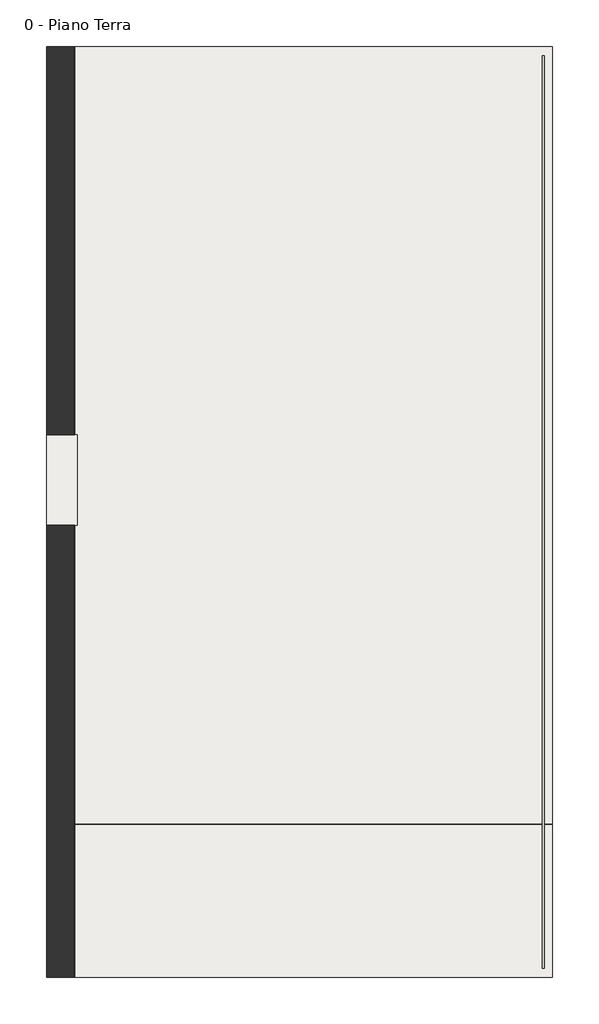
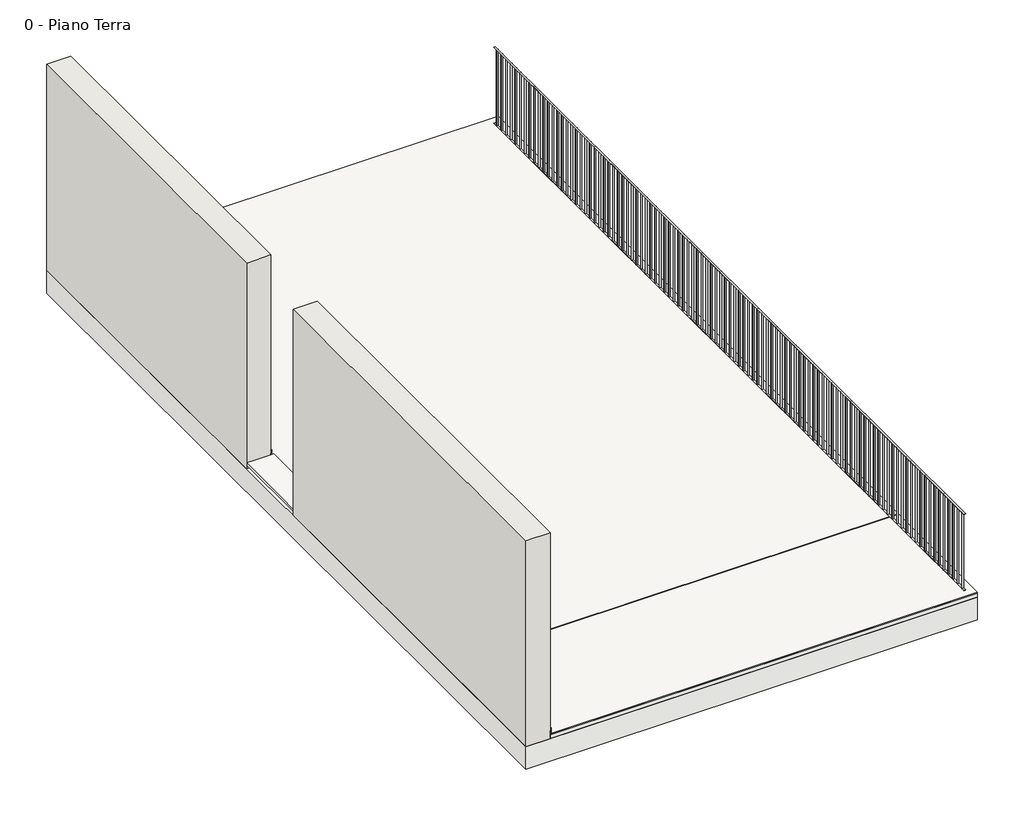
# One storey: 5 proxies, 5 slabs, 4 walls, 1 railing.
"""IFC4 building model written with IfcOpenShell, lengths in millimetres."""

from ifc_helpers import new_model, si_unit, frame, origin, origin_with_axes, place, context, project, spatial, polyline, outline, extrude, faceted_brep, element, save

model = new_model("IFC4")

# Units and contexts
model_context = context("Model", 3, world=origin())
ifc_project = project(units=[si_unit("LENGTHUNIT", "METRE", prefix="MILLI")], contexts=[model_context])

# Site, building, storey
site = spatial("IfcSite", under=ifc_project)
building = spatial("IfcBuilding", under=site)
storey = spatial("IfcBuildingStorey", under=building, Name="0 - Piano Terra", Elevation=0.0)

# Proxies
placement = place(None, origin())
element("IfcBuildingElementProxy", 1, Name="AQUASCUD JOIN VOLTECO", ObjectType="AQUASCUD JOIN VOLTECO", at=placement, inside=storey, context=model_context, shape_type="SweptSolid", body=[
    extrude(outline(polyline([(100.0, 12692.4028429), (50.0, 12692.4028429), (50.0, 12742.4028429), (51.0, 12742.4028429), (51.0, 12693.4028429), (100.0, 12693.4028429), (100.0, 12692.4028429)])), frame((0.0, 6340.2646486, 0.0), z_axis=(0.0, 1.0, 0.0), x_axis=(0.0, 0.0, 1.0)), (0.0, 0.0, 1.0), 5003.9897017),
])
element("IfcBuildingElementProxy", 2, Name="AQUASCUD JOIN VOLTECO", ObjectType="AQUASCUD JOIN VOLTECO", at=placement, inside=storey, context=model_context, shape_type="SweptSolid", body=[
    extrude(outline(polyline([(100.0, 12692.4028429), (50.0, 12692.4028429), (50.0, 12742.4028429), (51.0, 12742.4028429), (51.0, 12693.4028429), (100.0, 12693.4028429), (100.0, 12692.4028429)])), frame((0.0, 12344.2543503, 0.0), z_axis=(0.0, 1.0, 0.0), x_axis=(0.0, 0.0, 1.0)), (0.0, 0.0, 1.0), 4296.0102983),
])
element("IfcBuildingElementProxy", 3, Name="GARVO 3 VOLTECO", ObjectType="GARVO 3 VOLTECO", at=placement, inside=storey, context=model_context, shape_type="SweptSolid", body=[
    extrude(outline(polyline([(17992.4028429, 14580.2646486), (17992.4028429, 14480.2646486), (12692.4028429, 14480.2646486), (12692.4028429, 14580.2646486), (17992.4028429, 14580.2646486)])), frame((0.0, 0.0, 50.0), z_axis=(0.0, 0.0, 1.0), x_axis=(1.0, 0.0, 0.0)), (0.0, 0.0, 1.0), 1.0),
])
element("IfcBuildingElementProxy", 4, Name="GARVO 5 VOLTECO", ObjectType="GARVO 5 VOLTECO", at=placement, inside=storey, context=model_context, shape_type="SweptSolid", body=[
    extrude(outline(polyline([(12692.4028429, 7960.2646486), (12692.4028429, 8110.2646486), (17992.4028429, 8110.2646486), (17992.4028429, 7960.2646486), (12692.4028429, 7960.2646486)])), frame((0.0, 0.0, 50.0), z_axis=(0.0, 0.0, 1.0), x_axis=(1.0, 0.0, 0.0)), (0.0, 0.0, 1.0), 1.0),
])
element("IfcBuildingElementProxy", 5, Name="AQUASCUD JOIN BT VOLTECO", ObjectType="AQUASCUD JOIN BT VOLTECO", at=placement, inside=storey, context=model_context, shape_type="Brep", body=[
    faceted_brep([(12733.4028429, 11343.2543503, 60.0), (12733.4028429, 11343.2543503, 51.0), (12733.4028429, 12345.2543503, 51.0), (12733.4028429, 12345.2543503, 60.0), (12732.4028429, 11344.2543503, 60.0), (12732.4028429, 12344.2543503, 60.0), (12732.4028429, 11344.2543503, 50.0), (12732.4028429, 12344.2543503, 50.0), (12782.4028429, 11294.2543503, 50.0), (12782.4028429, 12394.2543503, 50.0), (12782.4028429, 11294.2543503, 51.0), (12782.4028429, 12394.2543503, 51.0), (12693.4028429, 11343.2543503, 51.0), (12693.4028429, 11343.2543503, 60.0), (12693.4028429, 11344.2543503, 60.0), (12693.4028429, 11344.2543503, 50.0), (12693.4028429, 11294.2543503, 50.0), (12693.4028429, 11294.2543503, 51.0), (12693.4028429, 12345.2543503, 60.0), (12693.4028429, 12345.2543503, 51.0), (12693.4028429, 12394.2543503, 51.0), (12693.4028429, 12394.2543503, 50.0), (12693.4028429, 12344.2543503, 50.0), (12693.4028429, 12344.2543503, 60.0)], [[[0, 1, 2, 3]], [[4, 0, 3, 5]], [[6, 4, 5, 7]], [[8, 6, 7, 9]], [[10, 8, 9, 11]], [[1, 10, 11, 2]], [[12, 13, 14, 15, 16, 17]], [[1, 0, 13, 12]], [[0, 4, 14, 13]], [[4, 6, 15, 14]], [[6, 8, 16, 15]], [[8, 10, 17, 16]], [[10, 1, 12, 17]], [[18, 19, 20, 21, 22, 23]], [[3, 2, 19, 18]], [[5, 3, 18, 23]], [[7, 5, 23, 22]], [[9, 7, 22, 21]], [[11, 9, 21, 20]], [[2, 11, 20, 19]]]),
])

# Railing
element("IfcRailing", 6, ObjectType="Rettangolare Semplice", at=placement, inside=storey, context=model_context, shape_type="SweptSolid", body=[
    extrude(outline(polyline([(17882.3845922, 16540.2646486), (17902.3845922, 16540.2646486), (17902.3845922, 6440.2646486), (17882.3845922, 6440.2646486), (17882.3845922, 16540.2646486)])), frame((0.0, 0.0, 1060.0), z_axis=(0.0, 0.0, 1.0), x_axis=(1.0, 0.0, 0.0)), (0.0, 0.0, 1.0), 5.0),
    extrude(outline(polyline([(17882.4210936, 16540.2646486), (17902.4210936, 16540.2646486), (17902.4210936, 6440.2646486), (17882.4210936, 6440.2646486), (17882.4210936, 16540.2646486)])), frame((0.0, 0.0, 60.0), z_axis=(0.0, 0.0, 1.0), x_axis=(1.0, 0.0, 0.0)), (0.0, 0.0, 1.0), 5.0),
    extrude(outline(polyline([(17901.5437303, 6485.9436706), (17901.5437303, 6480.9436706), (17881.5437303, 6480.9436706), (17881.5437303, 6485.9436706), (17901.5437303, 6485.9436706)])), frame((0.0, 0.0, 64.9549766), z_axis=(0.0, 0.0, 1.0), x_axis=(1.0, 0.0, 0.0)), (0.0, 0.0, 1.0), 997.6),
    extrude(outline(polyline([(17901.5437303, 6585.9436706), (17901.5437303, 6580.9436706), (17881.5437303, 6580.9436706), (17881.5437303, 6585.9436706), (17901.5437303, 6585.9436706)])), frame((0.0, 0.0, 64.9549766), z_axis=(0.0, 0.0, 1.0), x_axis=(1.0, 0.0, 0.0)), (0.0, 0.0, 1.0), 997.6),
    extrude(outline(polyline([(17901.5437303, 6685.9436706), (17901.5437303, 6680.9436706), (17881.5437303, 6680.9436706), (17881.5437303, 6685.9436706), (17901.5437303, 6685.9436706)])), frame((0.0, 0.0, 64.9549766), z_axis=(0.0, 0.0, 1.0), x_axis=(1.0, 0.0, 0.0)), (0.0, 0.0, 1.0), 997.6),
    extrude(outline(polyline([(17901.5437303, 6785.9436706), (17901.5437303, 6780.9436706), (17881.5437303, 6780.9436706), (17881.5437303, 6785.9436706), (17901.5437303, 6785.9436706)])), frame((0.0, 0.0, 64.9549766), z_axis=(0.0, 0.0, 1.0), x_axis=(1.0, 0.0, 0.0)), (0.0, 0.0, 1.0), 997.6),
    extrude(outline(polyline([(17901.5437303, 6885.9436706), (17901.5437303, 6880.9436706), (17881.5437303, 6880.9436706), (17881.5437303, 6885.9436706), (17901.5437303, 6885.9436706)])), frame((0.0, 0.0, 64.9549766), z_axis=(0.0, 0.0, 1.0), x_axis=(1.0, 0.0, 0.0)), (0.0, 0.0, 1.0), 997.6),
    extrude(outline(polyline([(17901.5437303, 6985.9436706), (17901.5437303, 6980.9436706), (17881.5437303, 6980.9436706), (17881.5437303, 6985.9436706), (17901.5437303, 6985.9436706)])), frame((0.0, 0.0, 64.9549766), z_axis=(0.0, 0.0, 1.0), x_axis=(1.0, 0.0, 0.0)), (0.0, 0.0, 1.0), 997.6),
    extrude(outline(polyline([(17901.5437303, 7085.9436706), (17901.5437303, 7080.9436706), (17881.5437303, 7080.9436706), (17881.5437303, 7085.9436706), (17901.5437303, 7085.9436706)])), frame((0.0, 0.0, 64.9549766), z_axis=(0.0, 0.0, 1.0), x_axis=(1.0, 0.0, 0.0)), (0.0, 0.0, 1.0), 997.6),
    extrude(outline(polyline([(17901.5437303, 7185.9436706), (17901.5437303, 7180.9436706), (17881.5437303, 7180.9436706), (17881.5437303, 7185.9436706), (17901.5437303, 7185.9436706)])), frame((0.0, 0.0, 64.9549766), z_axis=(0.0, 0.0, 1.0), x_axis=(1.0, 0.0, 0.0)), (0.0, 0.0, 1.0), 997.6),
    extrude(outline(polyline([(17901.5437303, 7285.9436706), (17901.5437303, 7280.9436706), (17881.5437303, 7280.9436706), (17881.5437303, 7285.9436706), (17901.5437303, 7285.9436706)])), frame((0.0, 0.0, 64.9549766), z_axis=(0.0, 0.0, 1.0), x_axis=(1.0, 0.0, 0.0)), (0.0, 0.0, 1.0), 997.6),
    extrude(outline(polyline([(17901.5437303, 7385.9436706), (17901.5437303, 7380.9436706), (17881.5437303, 7380.9436706), (17881.5437303, 7385.9436706), (17901.5437303, 7385.9436706)])), frame((0.0, 0.0, 64.9549766), z_axis=(0.0, 0.0, 1.0), x_axis=(1.0, 0.0, 0.0)), (0.0, 0.0, 1.0), 997.6),
    extrude(outline(polyline([(17901.5437303, 7485.9436706), (17901.5437303, 7480.9436706), (17881.5437303, 7480.9436706), (17881.5437303, 7485.9436706), (17901.5437303, 7485.9436706)])), frame((0.0, 0.0, 64.9549766), z_axis=(0.0, 0.0, 1.0), x_axis=(1.0, 0.0, 0.0)), (0.0, 0.0, 1.0), 997.6),
    extrude(outline(polyline([(17901.5437303, 7585.9436706), (17901.5437303, 7580.9436706), (17881.5437303, 7580.9436706), (17881.5437303, 7585.9436706), (17901.5437303, 7585.9436706)])), frame((0.0, 0.0, 64.9549766), z_axis=(0.0, 0.0, 1.0), x_axis=(1.0, 0.0, 0.0)), (0.0, 0.0, 1.0), 997.6),
    extrude(outline(polyline([(17901.5437303, 7685.9436706), (17901.5437303, 7680.9436706), (17881.5437303, 7680.9436706), (17881.5437303, 7685.9436706), (17901.5437303, 7685.9436706)])), frame((0.0, 0.0, 64.9549766), z_axis=(0.0, 0.0, 1.0), x_axis=(1.0, 0.0, 0.0)), (0.0, 0.0, 1.0), 997.6),
    extrude(outline(polyline([(17901.5437303, 7785.9436706), (17901.5437303, 7780.9436706), (17881.5437303, 7780.9436706), (17881.5437303, 7785.9436706), (17901.5437303, 7785.9436706)])), frame((0.0, 0.0, 64.9549766), z_axis=(0.0, 0.0, 1.0), x_axis=(1.0, 0.0, 0.0)), (0.0, 0.0, 1.0), 997.6),
    extrude(outline(polyline([(17901.5437303, 7885.9436706), (17901.5437303, 7880.9436706), (17881.5437303, 7880.9436706), (17881.5437303, 7885.9436706), (17901.5437303, 7885.9436706)])), frame((0.0, 0.0, 64.9549766), z_axis=(0.0, 0.0, 1.0), x_axis=(1.0, 0.0, 0.0)), (0.0, 0.0, 1.0), 997.6),
    extrude(outline(polyline([(17901.5437303, 7985.9436706), (17901.5437303, 7980.9436706), (17881.5437303, 7980.9436706), (17881.5437303, 7985.9436706), (17901.5437303, 7985.9436706)])), frame((0.0, 0.0, 64.9549766), z_axis=(0.0, 0.0, 1.0), x_axis=(1.0, 0.0, 0.0)), (0.0, 0.0, 1.0), 997.6),
    extrude(outline(polyline([(17901.5437303, 8085.9436706), (17901.5437303, 8080.9436706), (17881.5437303, 8080.9436706), (17881.5437303, 8085.9436706), (17901.5437303, 8085.9436706)])), frame((0.0, 0.0, 64.9549766), z_axis=(0.0, 0.0, 1.0), x_axis=(1.0, 0.0, 0.0)), (0.0, 0.0, 1.0), 997.6),
    extrude(outline(polyline([(17901.5437303, 8185.9436706), (17901.5437303, 8180.9436706), (17881.5437303, 8180.9436706), (17881.5437303, 8185.9436706), (17901.5437303, 8185.9436706)])), frame((0.0, 0.0, 64.9549766), z_axis=(0.0, 0.0, 1.0), x_axis=(1.0, 0.0, 0.0)), (0.0, 0.0, 1.0), 997.6),
    extrude(outline(polyline([(17901.5437303, 8285.9436706), (17901.5437303, 8280.9436706), (17881.5437303, 8280.9436706), (17881.5437303, 8285.9436706), (17901.5437303, 8285.9436706)])), frame((0.0, 0.0, 64.9549766), z_axis=(0.0, 0.0, 1.0), x_axis=(1.0, 0.0, 0.0)), (0.0, 0.0, 1.0), 997.6),
    extrude(outline(polyline([(17901.5437303, 8385.9436706), (17901.5437303, 8380.9436706), (17881.5437303, 8380.9436706), (17881.5437303, 8385.9436706), (17901.5437303, 8385.9436706)])), frame((0.0, 0.0, 64.9549766), z_axis=(0.0, 0.0, 1.0), x_axis=(1.0, 0.0, 0.0)), (0.0, 0.0, 1.0), 997.6),
    extrude(outline(polyline([(17901.5437303, 8485.9436706), (17901.5437303, 8480.9436706), (17881.5437303, 8480.9436706), (17881.5437303, 8485.9436706), (17901.5437303, 8485.9436706)])), frame((0.0, 0.0, 64.9549766), z_axis=(0.0, 0.0, 1.0), x_axis=(1.0, 0.0, 0.0)), (0.0, 0.0, 1.0), 997.6),
    extrude(outline(polyline([(17901.5437303, 8585.9436706), (17901.5437303, 8580.9436706), (17881.5437303, 8580.9436706), (17881.5437303, 8585.9436706), (17901.5437303, 8585.9436706)])), frame((0.0, 0.0, 64.9549766), z_axis=(0.0, 0.0, 1.0), x_axis=(1.0, 0.0, 0.0)), (0.0, 0.0, 1.0), 997.6),
    extrude(outline(polyline([(17901.5437303, 8685.9436706), (17901.5437303, 8680.9436706), (17881.5437303, 8680.9436706), (17881.5437303, 8685.9436706), (17901.5437303, 8685.9436706)])), frame((0.0, 0.0, 64.9549766), z_axis=(0.0, 0.0, 1.0), x_axis=(1.0, 0.0, 0.0)), (0.0, 0.0, 1.0), 997.6),
    extrude(outline(polyline([(17901.5437303, 8785.9436706), (17901.5437303, 8780.9436706), (17881.5437303, 8780.9436706), (17881.5437303, 8785.9436706), (17901.5437303, 8785.9436706)])), frame((0.0, 0.0, 64.9549766), z_axis=(0.0, 0.0, 1.0), x_axis=(1.0, 0.0, 0.0)), (0.0, 0.0, 1.0), 997.6),
    extrude(outline(polyline([(17901.5437303, 8885.9436706), (17901.5437303, 8880.9436706), (17881.5437303, 8880.9436706), (17881.5437303, 8885.9436706), (17901.5437303, 8885.9436706)])), frame((0.0, 0.0, 64.9549766), z_axis=(0.0, 0.0, 1.0), x_axis=(1.0, 0.0, 0.0)), (0.0, 0.0, 1.0), 997.6),
    extrude(outline(polyline([(17901.5437303, 8985.9436706), (17901.5437303, 8980.9436706), (17881.5437303, 8980.9436706), (17881.5437303, 8985.9436706), (17901.5437303, 8985.9436706)])), frame((0.0, 0.0, 64.9549766), z_axis=(0.0, 0.0, 1.0), x_axis=(1.0, 0.0, 0.0)), (0.0, 0.0, 1.0), 997.6),
    extrude(outline(polyline([(17901.5437303, 9085.9436706), (17901.5437303, 9080.9436706), (17881.5437303, 9080.9436706), (17881.5437303, 9085.9436706), (17901.5437303, 9085.9436706)])), frame((0.0, 0.0, 64.9549766), z_axis=(0.0, 0.0, 1.0), x_axis=(1.0, 0.0, 0.0)), (0.0, 0.0, 1.0), 997.6),
    extrude(outline(polyline([(17901.5437303, 9185.9436706), (17901.5437303, 9180.9436706), (17881.5437303, 9180.9436706), (17881.5437303, 9185.9436706), (17901.5437303, 9185.9436706)])), frame((0.0, 0.0, 64.9549766), z_axis=(0.0, 0.0, 1.0), x_axis=(1.0, 0.0, 0.0)), (0.0, 0.0, 1.0), 997.6),
    extrude(outline(polyline([(17901.5437303, 9285.9436706), (17901.5437303, 9280.9436706), (17881.5437303, 9280.9436706), (17881.5437303, 9285.9436706), (17901.5437303, 9285.9436706)])), frame((0.0, 0.0, 64.9549766), z_axis=(0.0, 0.0, 1.0), x_axis=(1.0, 0.0, 0.0)), (0.0, 0.0, 1.0), 997.6),
    extrude(outline(polyline([(17901.5437303, 9385.9436706), (17901.5437303, 9380.9436706), (17881.5437303, 9380.9436706), (17881.5437303, 9385.9436706), (17901.5437303, 9385.9436706)])), frame((0.0, 0.0, 64.9549766), z_axis=(0.0, 0.0, 1.0), x_axis=(1.0, 0.0, 0.0)), (0.0, 0.0, 1.0), 997.6),
    extrude(outline(polyline([(17901.5437303, 9485.9436706), (17901.5437303, 9480.9436706), (17881.5437303, 9480.9436706), (17881.5437303, 9485.9436706), (17901.5437303, 9485.9436706)])), frame((0.0, 0.0, 64.9549766), z_axis=(0.0, 0.0, 1.0), x_axis=(1.0, 0.0, 0.0)), (0.0, 0.0, 1.0), 997.6),
    extrude(outline(polyline([(17901.5437303, 9585.9436706), (17901.5437303, 9580.9436706), (17881.5437303, 9580.9436706), (17881.5437303, 9585.9436706), (17901.5437303, 9585.9436706)])), frame((0.0, 0.0, 64.9549766), z_axis=(0.0, 0.0, 1.0), x_axis=(1.0, 0.0, 0.0)), (0.0, 0.0, 1.0), 997.6),
    extrude(outline(polyline([(17901.5437303, 9685.9436706), (17901.5437303, 9680.9436706), (17881.5437303, 9680.9436706), (17881.5437303, 9685.9436706), (17901.5437303, 9685.9436706)])), frame((0.0, 0.0, 64.9549766), z_axis=(0.0, 0.0, 1.0), x_axis=(1.0, 0.0, 0.0)), (0.0, 0.0, 1.0), 997.6),
    extrude(outline(polyline([(17901.5437303, 9785.9436706), (17901.5437303, 9780.9436706), (17881.5437303, 9780.9436706), (17881.5437303, 9785.9436706), (17901.5437303, 9785.9436706)])), frame((0.0, 0.0, 64.9549766), z_axis=(0.0, 0.0, 1.0), x_axis=(1.0, 0.0, 0.0)), (0.0, 0.0, 1.0), 997.6),
    extrude(outline(polyline([(17901.5437303, 9885.9436706), (17901.5437303, 9880.9436706), (17881.5437303, 9880.9436706), (17881.5437303, 9885.9436706), (17901.5437303, 9885.9436706)])), frame((0.0, 0.0, 64.9549766), z_axis=(0.0, 0.0, 1.0), x_axis=(1.0, 0.0, 0.0)), (0.0, 0.0, 1.0), 997.6),
    extrude(outline(polyline([(17901.5437303, 9985.9436706), (17901.5437303, 9980.9436706), (17881.5437303, 9980.9436706), (17881.5437303, 9985.9436706), (17901.5437303, 9985.9436706)])), frame((0.0, 0.0, 64.9549766), z_axis=(0.0, 0.0, 1.0), x_axis=(1.0, 0.0, 0.0)), (0.0, 0.0, 1.0), 997.6),
    extrude(outline(polyline([(17901.5437303, 10085.9436706), (17901.5437303, 10080.9436706), (17881.5437303, 10080.9436706), (17881.5437303, 10085.9436706), (17901.5437303, 10085.9436706)])), frame((0.0, 0.0, 64.9549766), z_axis=(0.0, 0.0, 1.0), x_axis=(1.0, 0.0, 0.0)), (0.0, 0.0, 1.0), 997.6),
    extrude(outline(polyline([(17901.5437303, 10185.9436706), (17901.5437303, 10180.9436706), (17881.5437303, 10180.9436706), (17881.5437303, 10185.9436706), (17901.5437303, 10185.9436706)])), frame((0.0, 0.0, 64.9549766), z_axis=(0.0, 0.0, 1.0), x_axis=(1.0, 0.0, 0.0)), (0.0, 0.0, 1.0), 997.6),
    extrude(outline(polyline([(17901.5437303, 10285.9436706), (17901.5437303, 10280.9436706), (17881.5437303, 10280.9436706), (17881.5437303, 10285.9436706), (17901.5437303, 10285.9436706)])), frame((0.0, 0.0, 64.9549766), z_axis=(0.0, 0.0, 1.0), x_axis=(1.0, 0.0, 0.0)), (0.0, 0.0, 1.0), 997.6),
    extrude(outline(polyline([(17901.5437303, 10385.9436706), (17901.5437303, 10380.9436706), (17881.5437303, 10380.9436706), (17881.5437303, 10385.9436706), (17901.5437303, 10385.9436706)])), frame((0.0, 0.0, 64.9549766), z_axis=(0.0, 0.0, 1.0), x_axis=(1.0, 0.0, 0.0)), (0.0, 0.0, 1.0), 997.6),
    extrude(outline(polyline([(17901.5437303, 10485.9436706), (17901.5437303, 10480.9436706), (17881.5437303, 10480.9436706), (17881.5437303, 10485.9436706), (17901.5437303, 10485.9436706)])), frame((0.0, 0.0, 64.9549766), z_axis=(0.0, 0.0, 1.0), x_axis=(1.0, 0.0, 0.0)), (0.0, 0.0, 1.0), 997.6),
    extrude(outline(polyline([(17901.5437303, 10585.9436706), (17901.5437303, 10580.9436706), (17881.5437303, 10580.9436706), (17881.5437303, 10585.9436706), (17901.5437303, 10585.9436706)])), frame((0.0, 0.0, 64.9549766), z_axis=(0.0, 0.0, 1.0), x_axis=(1.0, 0.0, 0.0)), (0.0, 0.0, 1.0), 997.6),
    extrude(outline(polyline([(17901.5437303, 10685.9436706), (17901.5437303, 10680.9436706), (17881.5437303, 10680.9436706), (17881.5437303, 10685.9436706), (17901.5437303, 10685.9436706)])), frame((0.0, 0.0, 64.9549766), z_axis=(0.0, 0.0, 1.0), x_axis=(1.0, 0.0, 0.0)), (0.0, 0.0, 1.0), 997.6),
    extrude(outline(polyline([(17901.5437303, 10785.9436706), (17901.5437303, 10780.9436706), (17881.5437303, 10780.9436706), (17881.5437303, 10785.9436706), (17901.5437303, 10785.9436706)])), frame((0.0, 0.0, 64.9549766), z_axis=(0.0, 0.0, 1.0), x_axis=(1.0, 0.0, 0.0)), (0.0, 0.0, 1.0), 997.6),
    extrude(outline(polyline([(17901.5437303, 10885.9436706), (17901.5437303, 10880.9436706), (17881.5437303, 10880.9436706), (17881.5437303, 10885.9436706), (17901.5437303, 10885.9436706)])), frame((0.0, 0.0, 64.9549766), z_axis=(0.0, 0.0, 1.0), x_axis=(1.0, 0.0, 0.0)), (0.0, 0.0, 1.0), 997.6),
    extrude(outline(polyline([(17901.5437303, 10985.9436706), (17901.5437303, 10980.9436706), (17881.5437303, 10980.9436706), (17881.5437303, 10985.9436706), (17901.5437303, 10985.9436706)])), frame((0.0, 0.0, 64.9549766), z_axis=(0.0, 0.0, 1.0), x_axis=(1.0, 0.0, 0.0)), (0.0, 0.0, 1.0), 997.6),
    extrude(outline(polyline([(17901.5437303, 11085.9436706), (17901.5437303, 11080.9436706), (17881.5437303, 11080.9436706), (17881.5437303, 11085.9436706), (17901.5437303, 11085.9436706)])), frame((0.0, 0.0, 64.9549766), z_axis=(0.0, 0.0, 1.0), x_axis=(1.0, 0.0, 0.0)), (0.0, 0.0, 1.0), 997.6),
    extrude(outline(polyline([(17901.5437303, 11185.9436706), (17901.5437303, 11180.9436706), (17881.5437303, 11180.9436706), (17881.5437303, 11185.9436706), (17901.5437303, 11185.9436706)])), frame((0.0, 0.0, 64.9549766), z_axis=(0.0, 0.0, 1.0), x_axis=(1.0, 0.0, 0.0)), (0.0, 0.0, 1.0), 997.6),
    extrude(outline(polyline([(17901.5437303, 11285.9436706), (17901.5437303, 11280.9436706), (17881.5437303, 11280.9436706), (17881.5437303, 11285.9436706), (17901.5437303, 11285.9436706)])), frame((0.0, 0.0, 64.9549766), z_axis=(0.0, 0.0, 1.0), x_axis=(1.0, 0.0, 0.0)), (0.0, 0.0, 1.0), 997.6),
    extrude(outline(polyline([(17901.5437303, 11385.9436706), (17901.5437303, 11380.9436706), (17881.5437303, 11380.9436706), (17881.5437303, 11385.9436706), (17901.5437303, 11385.9436706)])), frame((0.0, 0.0, 64.9549766), z_axis=(0.0, 0.0, 1.0), x_axis=(1.0, 0.0, 0.0)), (0.0, 0.0, 1.0), 997.6),
    extrude(outline(polyline([(17901.5437303, 11485.9436706), (17901.5437303, 11480.9436706), (17881.5437303, 11480.9436706), (17881.5437303, 11485.9436706), (17901.5437303, 11485.9436706)])), frame((0.0, 0.0, 64.9549766), z_axis=(0.0, 0.0, 1.0), x_axis=(1.0, 0.0, 0.0)), (0.0, 0.0, 1.0), 997.6),
    extrude(outline(polyline([(17901.5437303, 11585.9436706), (17901.5437303, 11580.9436706), (17881.5437303, 11580.9436706), (17881.5437303, 11585.9436706), (17901.5437303, 11585.9436706)])), frame((0.0, 0.0, 64.9549766), z_axis=(0.0, 0.0, 1.0), x_axis=(1.0, 0.0, 0.0)), (0.0, 0.0, 1.0), 997.6),
    extrude(outline(polyline([(17901.5437303, 11685.9436706), (17901.5437303, 11680.9436706), (17881.5437303, 11680.9436706), (17881.5437303, 11685.9436706), (17901.5437303, 11685.9436706)])), frame((0.0, 0.0, 64.9549766), z_axis=(0.0, 0.0, 1.0), x_axis=(1.0, 0.0, 0.0)), (0.0, 0.0, 1.0), 997.6),
    extrude(outline(polyline([(17901.5437303, 11785.9436706), (17901.5437303, 11780.9436706), (17881.5437303, 11780.9436706), (17881.5437303, 11785.9436706), (17901.5437303, 11785.9436706)])), frame((0.0, 0.0, 64.9549766), z_axis=(0.0, 0.0, 1.0), x_axis=(1.0, 0.0, 0.0)), (0.0, 0.0, 1.0), 997.6),
    extrude(outline(polyline([(17901.5437303, 11885.9436706), (17901.5437303, 11880.9436706), (17881.5437303, 11880.9436706), (17881.5437303, 11885.9436706), (17901.5437303, 11885.9436706)])), frame((0.0, 0.0, 64.9549766), z_axis=(0.0, 0.0, 1.0), x_axis=(1.0, 0.0, 0.0)), (0.0, 0.0, 1.0), 997.6),
    extrude(outline(polyline([(17901.5437303, 11985.9436706), (17901.5437303, 11980.9436706), (17881.5437303, 11980.9436706), (17881.5437303, 11985.9436706), (17901.5437303, 11985.9436706)])), frame((0.0, 0.0, 64.9549766), z_axis=(0.0, 0.0, 1.0), x_axis=(1.0, 0.0, 0.0)), (0.0, 0.0, 1.0), 997.6),
    extrude(outline(polyline([(17901.5437303, 12085.9436706), (17901.5437303, 12080.9436706), (17881.5437303, 12080.9436706), (17881.5437303, 12085.9436706), (17901.5437303, 12085.9436706)])), frame((0.0, 0.0, 64.9549766), z_axis=(0.0, 0.0, 1.0), x_axis=(1.0, 0.0, 0.0)), (0.0, 0.0, 1.0), 997.6),
    extrude(outline(polyline([(17901.5437303, 12185.9436706), (17901.5437303, 12180.9436706), (17881.5437303, 12180.9436706), (17881.5437303, 12185.9436706), (17901.5437303, 12185.9436706)])), frame((0.0, 0.0, 64.9549766), z_axis=(0.0, 0.0, 1.0), x_axis=(1.0, 0.0, 0.0)), (0.0, 0.0, 1.0), 997.6),
    extrude(outline(polyline([(17901.5437303, 12285.9436706), (17901.5437303, 12280.9436706), (17881.5437303, 12280.9436706), (17881.5437303, 12285.9436706), (17901.5437303, 12285.9436706)])), frame((0.0, 0.0, 64.9549766), z_axis=(0.0, 0.0, 1.0), x_axis=(1.0, 0.0, 0.0)), (0.0, 0.0, 1.0), 997.6),
    extrude(outline(polyline([(17901.5437303, 12385.9436706), (17901.5437303, 12380.9436706), (17881.5437303, 12380.9436706), (17881.5437303, 12385.9436706), (17901.5437303, 12385.9436706)])), frame((0.0, 0.0, 64.9549766), z_axis=(0.0, 0.0, 1.0), x_axis=(1.0, 0.0, 0.0)), (0.0, 0.0, 1.0), 997.6),
    extrude(outline(polyline([(17901.5437303, 12485.9436706), (17901.5437303, 12480.9436706), (17881.5437303, 12480.9436706), (17881.5437303, 12485.9436706), (17901.5437303, 12485.9436706)])), frame((0.0, 0.0, 64.9549766), z_axis=(0.0, 0.0, 1.0), x_axis=(1.0, 0.0, 0.0)), (0.0, 0.0, 1.0), 997.6),
    extrude(outline(polyline([(17901.5437303, 12585.9436706), (17901.5437303, 12580.9436706), (17881.5437303, 12580.9436706), (17881.5437303, 12585.9436706), (17901.5437303, 12585.9436706)])), frame((0.0, 0.0, 64.9549766), z_axis=(0.0, 0.0, 1.0), x_axis=(1.0, 0.0, 0.0)), (0.0, 0.0, 1.0), 997.6),
    extrude(outline(polyline([(17901.5437303, 12685.9436706), (17901.5437303, 12680.9436706), (17881.5437303, 12680.9436706), (17881.5437303, 12685.9436706), (17901.5437303, 12685.9436706)])), frame((0.0, 0.0, 64.9549766), z_axis=(0.0, 0.0, 1.0), x_axis=(1.0, 0.0, 0.0)), (0.0, 0.0, 1.0), 997.6),
    extrude(outline(polyline([(17901.5437303, 12785.9436706), (17901.5437303, 12780.9436706), (17881.5437303, 12780.9436706), (17881.5437303, 12785.9436706), (17901.5437303, 12785.9436706)])), frame((0.0, 0.0, 64.9549766), z_axis=(0.0, 0.0, 1.0), x_axis=(1.0, 0.0, 0.0)), (0.0, 0.0, 1.0), 997.6),
    extrude(outline(polyline([(17901.5437303, 12885.9436706), (17901.5437303, 12880.9436706), (17881.5437303, 12880.9436706), (17881.5437303, 12885.9436706), (17901.5437303, 12885.9436706)])), frame((0.0, 0.0, 64.9549766), z_axis=(0.0, 0.0, 1.0), x_axis=(1.0, 0.0, 0.0)), (0.0, 0.0, 1.0), 997.6),
    extrude(outline(polyline([(17901.5437303, 12985.9436706), (17901.5437303, 12980.9436706), (17881.5437303, 12980.9436706), (17881.5437303, 12985.9436706), (17901.5437303, 12985.9436706)])), frame((0.0, 0.0, 64.9549766), z_axis=(0.0, 0.0, 1.0), x_axis=(1.0, 0.0, 0.0)), (0.0, 0.0, 1.0), 997.6),
    extrude(outline(polyline([(17901.5437303, 13085.9436706), (17901.5437303, 13080.9436706), (17881.5437303, 13080.9436706), (17881.5437303, 13085.9436706), (17901.5437303, 13085.9436706)])), frame((0.0, 0.0, 64.9549766), z_axis=(0.0, 0.0, 1.0), x_axis=(1.0, 0.0, 0.0)), (0.0, 0.0, 1.0), 997.6),
    extrude(outline(polyline([(17901.5437303, 13185.9436706), (17901.5437303, 13180.9436706), (17881.5437303, 13180.9436706), (17881.5437303, 13185.9436706), (17901.5437303, 13185.9436706)])), frame((0.0, 0.0, 64.9549766), z_axis=(0.0, 0.0, 1.0), x_axis=(1.0, 0.0, 0.0)), (0.0, 0.0, 1.0), 997.6),
    extrude(outline(polyline([(17901.5437303, 13285.9436706), (17901.5437303, 13280.9436706), (17881.5437303, 13280.9436706), (17881.5437303, 13285.9436706), (17901.5437303, 13285.9436706)])), frame((0.0, 0.0, 64.9549766), z_axis=(0.0, 0.0, 1.0), x_axis=(1.0, 0.0, 0.0)), (0.0, 0.0, 1.0), 997.6),
    extrude(outline(polyline([(17901.5437303, 13385.9436706), (17901.5437303, 13380.9436706), (17881.5437303, 13380.9436706), (17881.5437303, 13385.9436706), (17901.5437303, 13385.9436706)])), frame((0.0, 0.0, 64.9549766), z_axis=(0.0, 0.0, 1.0), x_axis=(1.0, 0.0, 0.0)), (0.0, 0.0, 1.0), 997.6),
    extrude(outline(polyline([(17901.5437303, 13485.9436706), (17901.5437303, 13480.9436706), (17881.5437303, 13480.9436706), (17881.5437303, 13485.9436706), (17901.5437303, 13485.9436706)])), frame((0.0, 0.0, 64.9549766), z_axis=(0.0, 0.0, 1.0), x_axis=(1.0, 0.0, 0.0)), (0.0, 0.0, 1.0), 997.6),
    extrude(outline(polyline([(17901.5437303, 13585.9436706), (17901.5437303, 13580.9436706), (17881.5437303, 13580.9436706), (17881.5437303, 13585.9436706), (17901.5437303, 13585.9436706)])), frame((0.0, 0.0, 64.9549766), z_axis=(0.0, 0.0, 1.0), x_axis=(1.0, 0.0, 0.0)), (0.0, 0.0, 1.0), 997.6),
    extrude(outline(polyline([(17901.5437303, 13685.9436706), (17901.5437303, 13680.9436706), (17881.5437303, 13680.9436706), (17881.5437303, 13685.9436706), (17901.5437303, 13685.9436706)])), frame((0.0, 0.0, 64.9549766), z_axis=(0.0, 0.0, 1.0), x_axis=(1.0, 0.0, 0.0)), (0.0, 0.0, 1.0), 997.6),
    extrude(outline(polyline([(17901.5437303, 13785.9436706), (17901.5437303, 13780.9436706), (17881.5437303, 13780.9436706), (17881.5437303, 13785.9436706), (17901.5437303, 13785.9436706)])), frame((0.0, 0.0, 64.9549766), z_axis=(0.0, 0.0, 1.0), x_axis=(1.0, 0.0, 0.0)), (0.0, 0.0, 1.0), 997.6),
    extrude(outline(polyline([(17901.5437303, 13885.9436706), (17901.5437303, 13880.9436706), (17881.5437303, 13880.9436706), (17881.5437303, 13885.9436706), (17901.5437303, 13885.9436706)])), frame((0.0, 0.0, 64.9549766), z_axis=(0.0, 0.0, 1.0), x_axis=(1.0, 0.0, 0.0)), (0.0, 0.0, 1.0), 997.6),
    extrude(outline(polyline([(17901.5437303, 13985.9436706), (17901.5437303, 13980.9436706), (17881.5437303, 13980.9436706), (17881.5437303, 13985.9436706), (17901.5437303, 13985.9436706)])), frame((0.0, 0.0, 64.9549766), z_axis=(0.0, 0.0, 1.0), x_axis=(1.0, 0.0, 0.0)), (0.0, 0.0, 1.0), 997.6),
    extrude(outline(polyline([(17901.5437303, 14085.9436706), (17901.5437303, 14080.9436706), (17881.5437303, 14080.9436706), (17881.5437303, 14085.9436706), (17901.5437303, 14085.9436706)])), frame((0.0, 0.0, 64.9549766), z_axis=(0.0, 0.0, 1.0), x_axis=(1.0, 0.0, 0.0)), (0.0, 0.0, 1.0), 997.6),
    extrude(outline(polyline([(17901.5437303, 14185.9436706), (17901.5437303, 14180.9436706), (17881.5437303, 14180.9436706), (17881.5437303, 14185.9436706), (17901.5437303, 14185.9436706)])), frame((0.0, 0.0, 64.9549766), z_axis=(0.0, 0.0, 1.0), x_axis=(1.0, 0.0, 0.0)), (0.0, 0.0, 1.0), 997.6),
    extrude(outline(polyline([(17901.5437303, 14285.9436706), (17901.5437303, 14280.9436706), (17881.5437303, 14280.9436706), (17881.5437303, 14285.9436706), (17901.5437303, 14285.9436706)])), frame((0.0, 0.0, 64.9549766), z_axis=(0.0, 0.0, 1.0), x_axis=(1.0, 0.0, 0.0)), (0.0, 0.0, 1.0), 997.6),
    extrude(outline(polyline([(17901.5437303, 14385.9436706), (17901.5437303, 14380.9436706), (17881.5437303, 14380.9436706), (17881.5437303, 14385.9436706), (17901.5437303, 14385.9436706)])), frame((0.0, 0.0, 64.9549766), z_axis=(0.0, 0.0, 1.0), x_axis=(1.0, 0.0, 0.0)), (0.0, 0.0, 1.0), 997.6),
    extrude(outline(polyline([(17901.5437303, 14485.9436706), (17901.5437303, 14480.9436706), (17881.5437303, 14480.9436706), (17881.5437303, 14485.9436706), (17901.5437303, 14485.9436706)])), frame((0.0, 0.0, 64.9549766), z_axis=(0.0, 0.0, 1.0), x_axis=(1.0, 0.0, 0.0)), (0.0, 0.0, 1.0), 997.6),
    extrude(outline(polyline([(17901.5437303, 14585.9436706), (17901.5437303, 14580.9436706), (17881.5437303, 14580.9436706), (17881.5437303, 14585.9436706), (17901.5437303, 14585.9436706)])), frame((0.0, 0.0, 64.9549766), z_axis=(0.0, 0.0, 1.0), x_axis=(1.0, 0.0, 0.0)), (0.0, 0.0, 1.0), 997.6),
    extrude(outline(polyline([(17901.5437303, 14685.9436706), (17901.5437303, 14680.9436706), (17881.5437303, 14680.9436706), (17881.5437303, 14685.9436706), (17901.5437303, 14685.9436706)])), frame((0.0, 0.0, 64.9549766), z_axis=(0.0, 0.0, 1.0), x_axis=(1.0, 0.0, 0.0)), (0.0, 0.0, 1.0), 997.6),
    extrude(outline(polyline([(17901.5437303, 14785.9436706), (17901.5437303, 14780.9436706), (17881.5437303, 14780.9436706), (17881.5437303, 14785.9436706), (17901.5437303, 14785.9436706)])), frame((0.0, 0.0, 64.9549766), z_axis=(0.0, 0.0, 1.0), x_axis=(1.0, 0.0, 0.0)), (0.0, 0.0, 1.0), 997.6),
    extrude(outline(polyline([(17901.5437303, 14885.9436706), (17901.5437303, 14880.9436706), (17881.5437303, 14880.9436706), (17881.5437303, 14885.9436706), (17901.5437303, 14885.9436706)])), frame((0.0, 0.0, 64.9549766), z_axis=(0.0, 0.0, 1.0), x_axis=(1.0, 0.0, 0.0)), (0.0, 0.0, 1.0), 997.6),
    extrude(outline(polyline([(17901.5437303, 14985.9436706), (17901.5437303, 14980.9436706), (17881.5437303, 14980.9436706), (17881.5437303, 14985.9436706), (17901.5437303, 14985.9436706)])), frame((0.0, 0.0, 64.9549766), z_axis=(0.0, 0.0, 1.0), x_axis=(1.0, 0.0, 0.0)), (0.0, 0.0, 1.0), 997.6),
    extrude(outline(polyline([(17901.5437303, 15085.9436706), (17901.5437303, 15080.9436706), (17881.5437303, 15080.9436706), (17881.5437303, 15085.9436706), (17901.5437303, 15085.9436706)])), frame((0.0, 0.0, 64.9549766), z_axis=(0.0, 0.0, 1.0), x_axis=(1.0, 0.0, 0.0)), (0.0, 0.0, 1.0), 997.6),
    extrude(outline(polyline([(17901.5437303, 15185.9436706), (17901.5437303, 15180.9436706), (17881.5437303, 15180.9436706), (17881.5437303, 15185.9436706), (17901.5437303, 15185.9436706)])), frame((0.0, 0.0, 64.9549766), z_axis=(0.0, 0.0, 1.0), x_axis=(1.0, 0.0, 0.0)), (0.0, 0.0, 1.0), 997.6),
    extrude(outline(polyline([(17901.5437303, 15285.9436706), (17901.5437303, 15280.9436706), (17881.5437303, 15280.9436706), (17881.5437303, 15285.9436706), (17901.5437303, 15285.9436706)])), frame((0.0, 0.0, 64.9549766), z_axis=(0.0, 0.0, 1.0), x_axis=(1.0, 0.0, 0.0)), (0.0, 0.0, 1.0), 997.6),
    extrude(outline(polyline([(17901.5437303, 15385.9436706), (17901.5437303, 15380.9436706), (17881.5437303, 15380.9436706), (17881.5437303, 15385.9436706), (17901.5437303, 15385.9436706)])), frame((0.0, 0.0, 64.9549766), z_axis=(0.0, 0.0, 1.0), x_axis=(1.0, 0.0, 0.0)), (0.0, 0.0, 1.0), 997.6),
    extrude(outline(polyline([(17901.5437303, 15485.9436706), (17901.5437303, 15480.9436706), (17881.5437303, 15480.9436706), (17881.5437303, 15485.9436706), (17901.5437303, 15485.9436706)])), frame((0.0, 0.0, 64.9549766), z_axis=(0.0, 0.0, 1.0), x_axis=(1.0, 0.0, 0.0)), (0.0, 0.0, 1.0), 997.6),
    extrude(outline(polyline([(17901.5437303, 15585.9436706), (17901.5437303, 15580.9436706), (17881.5437303, 15580.9436706), (17881.5437303, 15585.9436706), (17901.5437303, 15585.9436706)])), frame((0.0, 0.0, 64.9549766), z_axis=(0.0, 0.0, 1.0), x_axis=(1.0, 0.0, 0.0)), (0.0, 0.0, 1.0), 997.6),
    extrude(outline(polyline([(17901.5437303, 15685.9436706), (17901.5437303, 15680.9436706), (17881.5437303, 15680.9436706), (17881.5437303, 15685.9436706), (17901.5437303, 15685.9436706)])), frame((0.0, 0.0, 64.9549766), z_axis=(0.0, 0.0, 1.0), x_axis=(1.0, 0.0, 0.0)), (0.0, 0.0, 1.0), 997.6),
    extrude(outline(polyline([(17901.5437303, 15785.9436706), (17901.5437303, 15780.9436706), (17881.5437303, 15780.9436706), (17881.5437303, 15785.9436706), (17901.5437303, 15785.9436706)])), frame((0.0, 0.0, 64.9549766), z_axis=(0.0, 0.0, 1.0), x_axis=(1.0, 0.0, 0.0)), (0.0, 0.0, 1.0), 997.6),
    extrude(outline(polyline([(17901.5437303, 15885.9436706), (17901.5437303, 15880.9436706), (17881.5437303, 15880.9436706), (17881.5437303, 15885.9436706), (17901.5437303, 15885.9436706)])), frame((0.0, 0.0, 64.9549766), z_axis=(0.0, 0.0, 1.0), x_axis=(1.0, 0.0, 0.0)), (0.0, 0.0, 1.0), 997.6),
    extrude(outline(polyline([(17901.5437303, 15985.9436706), (17901.5437303, 15980.9436706), (17881.5437303, 15980.9436706), (17881.5437303, 15985.9436706), (17901.5437303, 15985.9436706)])), frame((0.0, 0.0, 64.9549766), z_axis=(0.0, 0.0, 1.0), x_axis=(1.0, 0.0, 0.0)), (0.0, 0.0, 1.0), 997.6),
    extrude(outline(polyline([(17901.5437303, 16085.9436706), (17901.5437303, 16080.9436706), (17881.5437303, 16080.9436706), (17881.5437303, 16085.9436706), (17901.5437303, 16085.9436706)])), frame((0.0, 0.0, 64.9549766), z_axis=(0.0, 0.0, 1.0), x_axis=(1.0, 0.0, 0.0)), (0.0, 0.0, 1.0), 997.6),
    extrude(outline(polyline([(17901.5437303, 16185.9436706), (17901.5437303, 16180.9436706), (17881.5437303, 16180.9436706), (17881.5437303, 16185.9436706), (17901.5437303, 16185.9436706)])), frame((0.0, 0.0, 64.9549766), z_axis=(0.0, 0.0, 1.0), x_axis=(1.0, 0.0, 0.0)), (0.0, 0.0, 1.0), 997.6),
    extrude(outline(polyline([(17901.5437303, 16285.9436706), (17901.5437303, 16280.9436706), (17881.5437303, 16280.9436706), (17881.5437303, 16285.9436706), (17901.5437303, 16285.9436706)])), frame((0.0, 0.0, 64.9549766), z_axis=(0.0, 0.0, 1.0), x_axis=(1.0, 0.0, 0.0)), (0.0, 0.0, 1.0), 997.6),
    extrude(outline(polyline([(17901.5437303, 16385.9436706), (17901.5437303, 16380.9436706), (17881.5437303, 16380.9436706), (17881.5437303, 16385.9436706), (17901.5437303, 16385.9436706)])), frame((0.0, 0.0, 64.9549766), z_axis=(0.0, 0.0, 1.0), x_axis=(1.0, 0.0, 0.0)), (0.0, 0.0, 1.0), 997.6),
    extrude(outline(polyline([(17901.5437303, 16485.9436706), (17901.5437303, 16480.9436706), (17881.5437303, 16480.9436706), (17881.5437303, 16485.9436706), (17901.5437303, 16485.9436706)])), frame((0.0, 0.0, 64.9549766), z_axis=(0.0, 0.0, 1.0), x_axis=(1.0, 0.0, 0.0)), (0.0, 0.0, 1.0), 997.6),
])

# Slabs
element("IfcSlab", 7, ObjectType="Ceramic tiles 1 cm", at=placement, inside=storey, context=model_context, shape_type="SweptSolid", body=[
    extrude(outline(polyline([(17992.4028429, 16640.2646486), (17992.4028429, 8040.2646486), (12693.4028429, 8040.2646486), (12693.4028429, 11344.2543503), (12732.4028429, 11344.2543503), (12732.4028429, 12344.2543503), (12693.4028429, 12344.2543503), (12693.4028429, 16640.2646486), (17992.4028429, 16640.2646486)])), frame((0.0, 0.0, 50.0), z_axis=(0.0, 0.0, 1.0), x_axis=(1.0, 0.0, 0.0)), (0.0, 0.0, 1.0), 10.0),
])
element("IfcSlab", 8, ObjectType="Ceramic tiles 1 cm", at=placement, inside=storey, context=model_context, shape_type="SweptSolid", body=[
    extrude(outline(polyline([(17992.4028429, 8030.2646486), (17992.4028429, 6340.2646486), (12693.4028429, 6340.2646486), (12693.4028429, 8030.2646486), (17992.4028429, 8030.2646486)])), frame((0.0, 0.0, 50.0), z_axis=(0.0, 0.0, 1.0), x_axis=(1.0, 0.0, 0.0)), (0.0, 0.0, 1.0), 10.0),
])
element("IfcSlab", 9, ObjectType="MARBLE THRESHOLD 3 cm", at=placement, inside=storey, context=model_context, shape_type="Brep", body=[
    faceted_brep([(12392.4028429, 12344.2543503, 50.0), (12693.4028429, 12344.2543503, 50.0), (12732.4028429, 12344.2543503, 50.0), (12732.4028429, 11344.2543503, 50.0), (12693.4028429, 11344.2543503, 50.0), (12392.4028429, 11344.2543503, 50.0), (12392.4028429, 12344.2543503, 80.0), (12392.4028429, 11344.2543503, 80.0), (12732.4028429, 11344.2543503, 80.0), (12732.4028429, 12344.2543503, 80.0), (12732.4028429, 12344.2543503, 60.0), (12732.4028429, 11344.2543503, 60.0)], [[[0, 1, 2, 3, 4, 5]], [[6, 7, 8, 9]], [[2, 1, 0, 6, 9, 10]], [[3, 2, 10, 9, 8, 11]], [[5, 4, 3, 11, 8, 7]], [[0, 5, 7, 6]]]),
])
element("IfcSlab", 10, ObjectType="RC Roof slab", at=placement, inside=storey, context=model_context, shape_type="SweptSolid", body=[
    extrude(outline(polyline([(17992.4028429, 16640.2646486), (17992.4028429, 6340.2646486), (12392.4028429, 6340.2646486), (12392.4028429, 16640.2646486), (17992.4028429, 16640.2646486)])), frame((0.0, 0.0, -300.0), z_axis=(0.0, 0.0, 1.0), x_axis=(1.0, 0.0, 0.0)), (0.0, 0.0, 1.0), 300.0),
])
element("IfcSlab", 11, ObjectType="SLOPED SCREED 5 cm", at=placement, inside=storey, context=model_context, shape_type="Brep", body=[
    faceted_brep([(17992.4028429, 16640.2646486, 0.0), (17992.4028429, 6340.2646486, 0.0), (12692.4028429, 6340.2646486, 0.0), (12692.4028429, 16640.2646486, 0.0), (17992.4028429, 16640.2646486, 50.0), (12692.4028429, 16640.2646486, 50.0), (12692.4028429, 14580.2646486, 50.0), (12692.4028429, 14480.2646486, 50.0), (12692.4028429, 8110.2646486, 50.0), (12692.4028429, 7960.2646486, 50.0), (12692.4028429, 6340.2646486, 50.0), (17992.4028429, 6340.2646486, 50.0), (17992.4028429, 7960.2646486, 50.0), (17992.4028429, 8110.2646486, 50.0), (17992.4028429, 14480.2646486, 50.0), (17992.4028429, 14580.2646486, 50.0), (17992.4028429, 16640.2646486, 36.4238488), (17992.4028429, 6340.2646486, 36.4238488)], [[[0, 1, 2, 3]], [[4, 5, 6, 7, 8, 9, 10, 11, 12, 13, 14, 15]], [[1, 0, 16, 4, 15, 14, 13, 12, 11, 17]], [[2, 1, 17, 11, 10]], [[3, 2, 10, 9, 8, 7, 6, 5]], [[0, 3, 5, 4, 16]]]),
])

# Walls
element("IfcWall", 12, ObjectType="Generico - 30 cm", at=placement, inside=storey, context=model_context, shape_type="SweptSolid", body=[
    extrude(outline(polyline([(12392.4028429, 6340.2646486), (12392.4028429, 11344.2543503), (12692.4028429, 11344.2543503), (12692.4028429, 6340.2646486), (12392.4028429, 6340.2646486)])), origin_with_axes(), (0.0, 0.0, 1.0), 2700.0),
])
element("IfcWall", 13, ObjectType="Generico - 30 cm", at=placement, inside=storey, context=model_context, shape_type="SweptSolid", body=[
    extrude(outline(polyline([(12392.4028429, 12344.2543503), (12392.4028429, 16640.2646486), (12692.4028429, 16640.2646486), (12692.4028429, 12344.2543503), (12392.4028429, 12344.2543503)])), origin_with_axes(), (0.0, 0.0, 1.0), 2700.0),
])
element("IfcWall", 14, ObjectType="Skirting", at=placement, inside=storey, context=model_context, shape_type="SweptSolid", body=[
    extrude(outline(polyline([(12703.4028429, 11344.2543503), (12703.4028429, 6340.2646486), (12693.4028429, 6340.2646486), (12693.4028429, 11344.2543503), (12703.4028429, 11344.2543503)])), frame((0.0, 0.0, 60.0), z_axis=(0.0, 0.0, 1.0), x_axis=(1.0, 0.0, 0.0)), (0.0, 0.0, 1.0), 80.0),
])
element("IfcWall", 15, ObjectType="Skirting", at=placement, inside=storey, context=model_context, shape_type="SweptSolid", body=[
    extrude(outline(polyline([(12703.4028429, 16640.2646486), (12703.4028429, 12344.2543503), (12693.4028429, 12344.2543503), (12693.4028429, 16640.2646486), (12703.4028429, 16640.2646486)])), frame((0.0, 0.0, 60.0), z_axis=(0.0, 0.0, 1.0), x_axis=(1.0, 0.0, 0.0)), (0.0, 0.0, 1.0), 80.0),
])

save(model, "model.ifc")
